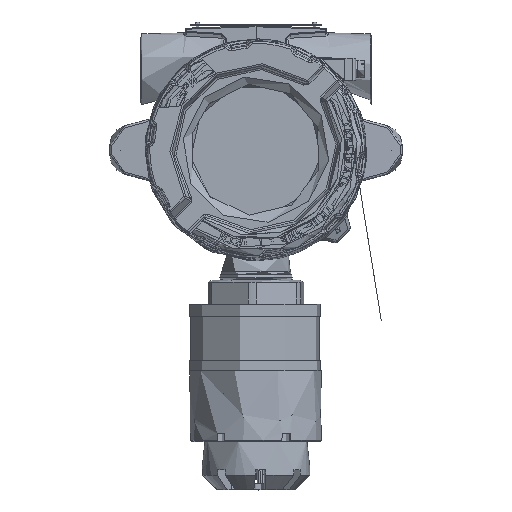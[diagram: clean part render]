
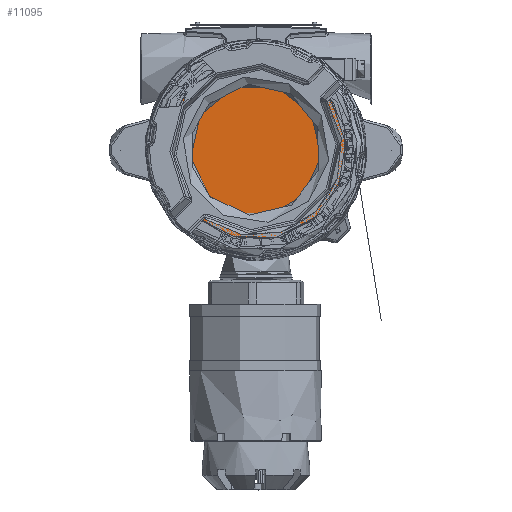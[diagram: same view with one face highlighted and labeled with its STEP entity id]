
A CAD part, top view. The second image highlights one B-rep face of the part: STEP entity #11095.
In plain terms, the highlighted planar face has unit normal (0, 0, 1) as drawn and (1, 0, 0) by its records, which use the part's own axes.
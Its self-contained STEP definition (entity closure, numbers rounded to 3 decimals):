
#11095=ADVANCED_FACE('',(#55269),#55271,.F.);
#55269=FACE_BOUND('',#55270,.T.);
#55270=EDGE_LOOP('',(#86744,#86745));
#55271=PLANE('',#55272);
#55272=AXIS2_PLACEMENT_3D('',#55273,#55274,#55275);
#55273=CARTESIAN_POINT('',(0.,0.,0.));
#55274=DIRECTION('',(-1.,0.,0.));
#55275=DIRECTION('',(0.,-1.,0.));
#86744=ORIENTED_EDGE('',*,*,#111196,.T.);
#86745=ORIENTED_EDGE('',*,*,#111197,.T.);
#111196=EDGE_CURVE('',#123884,#123885,#123886,.F.);
#111197=EDGE_CURVE('',#123885,#123884,#123887,.F.);
#123884=VERTEX_POINT('',#160616);
#123885=VERTEX_POINT('',#160617);
#123886=CIRCLE('',#160618,44.5);
#123887=CIRCLE('',#160622,44.5);
#160616=CARTESIAN_POINT('',(0.,-44.5,0.));
#160617=CARTESIAN_POINT('',(0.,31.466,-31.466));
#160618=AXIS2_PLACEMENT_3D('',#160619,#160620,#160621);
#160619=CARTESIAN_POINT('',(0.,0.,0.));
#160620=DIRECTION('',(-1.,0.,0.));
#160621=DIRECTION('',(0.,0.707,-0.707));
#160622=AXIS2_PLACEMENT_3D('',#160623,#160624,#160625);
#160623=CARTESIAN_POINT('',(0.,0.,0.));
#160624=DIRECTION('',(-1.,0.,0.));
#160625=DIRECTION('',(0.,-1.,0.));
